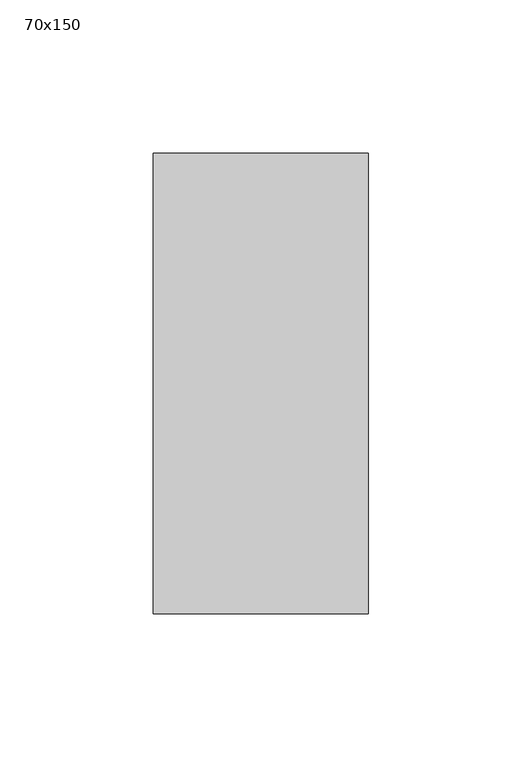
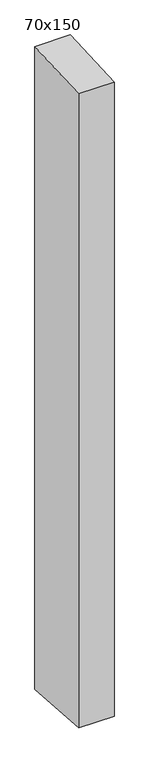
"""IFC4 building model written with IfcOpenShell, lengths in millimetres: member geometry, 長方形のマリオン : 70x150."""

import ifcopenshell
import ifcopenshell.guid

model = None  # the IFC model being written
_history = None  # IfcOwnerHistory: only IFC2X3 demands one
_inside = {}  # id of a spatial element -> (the spatial element, [elements in it])
_under = {}  # id of a project, library or spatial element -> (it, [spatial elements below it])
_declared = {}  # id of a project -> (the project, [libraries it declares])
_typed = {}  # id of a type object -> (the type object, [elements of that type])
_made_of = {}  # id of a material, layer set ... -> (it, [elements and type objects made of it])


def new_model(schema):
    """Start an empty IFC model of exactly this schema.

    Asked for "IFC4X3", IfcOpenShell would pick the latest addendum, in which some entities
    have other attributes; the version numbers below select the first issue.
    IFC2X3 requires an IfcOwnerHistory on every rooted entity: one is made here for all.
    """
    global model, _history
    if schema == "IFC4X3":
        model = ifcopenshell.file(schema_version=(4, 3, 0, 0))
    else:
        model = ifcopenshell.file(schema=schema)
    _inside.clear()
    _under.clear()
    _declared.clear()
    _typed.clear()
    _made_of.clear()
    _history = None
    if model.schema == "IFC2X3":
        org = make("IfcOrganization", Name="unknown")
        user = make(
            "IfcPersonAndOrganization",
            ThePerson=make("IfcPerson", FamilyName="unknown"),
            TheOrganization=org,
        )
        app = make(
            "IfcApplication",
            ApplicationDeveloper=org,
            Version="unknown",
            ApplicationFullName="unknown",
            ApplicationIdentifier="unknown",
        )
        _history = make(
            "IfcOwnerHistory",
            OwningUser=user,
            OwningApplication=app,
            ChangeAction="ADDED",
            CreationDate=0,
        )
    return model


def make(cls, **values):
    """One entity of the class cls with the attributes given. An attribute that is None is left unset."""
    return model.create_entity(
        cls, **{name: value for name, value in values.items() if value is not None}
    )


def rooted(cls, **values):
    """An entity with a GlobalId (a new one), such as an element, a storey or a relation."""
    return make(cls, GlobalId=ifcopenshell.guid.new(), OwnerHistory=_history, **values)


def si_unit(unit_type, name, prefix=None):
    """IfcSIUnit, for example si_unit("LENGTHUNIT", "METRE", prefix="MILLI")."""
    return make("IfcSIUnit", UnitType=unit_type, Prefix=prefix, Name=name)


def assignment(units):
    """IfcUnitAssignment: the units of a project."""
    return None if units is None else make("IfcUnitAssignment", Units=units)


def point(xyz):
    """IfcCartesianPoint."""
    return None if xyz is None else make("IfcCartesianPoint", Coordinates=xyz)


def direction(xyz):
    """IfcDirection."""
    return None if xyz is None else make("IfcDirection", DirectionRatios=xyz)


def frame(location, z_axis=None, x_axis=None):
    """IfcAxis2Placement3D, a coordinate frame: its origin and axes. An axis left out is left unset."""
    return make(
        "IfcAxis2Placement3D",
        Location=point(location),
        Axis=direction(z_axis),
        RefDirection=direction(x_axis),
    )


def origin():
    """The frame at (0, 0, 0) with its axes left unset."""
    return frame((0.0, 0.0, 0.0))


def place(relative_to, where):
    """IfcLocalPlacement: puts the frame where relative to a parent placement (None: the world)."""
    return make(
        "IfcLocalPlacement", PlacementRelTo=relative_to, RelativePlacement=where
    )


def context(
    kind, dimensions, precision=None, world=None, true_north=None, identifier=None
):
    """IfcGeometricRepresentationContext, for example the 3D "Model" context."""
    return make(
        "IfcGeometricRepresentationContext",
        ContextIdentifier=identifier,
        ContextType=kind,
        CoordinateSpaceDimension=dimensions,
        Precision=precision,
        WorldCoordinateSystem=world,
        TrueNorth=true_north,
    )


def project(units=None, contexts=None):
    """IfcProject with its units and contexts."""
    return rooted(
        "IfcProject",
        Name="project",
        RepresentationContexts=contexts,
        UnitsInContext=assignment(units),
    )


def spatial(cls, under=None, at=None, **own):
    """A site, building, storey or space (cls), placed at a placement, below another one or the project."""
    s = rooted(cls, ObjectPlacement=at, **own)
    if under is not None:
        _under.setdefault(under.id(), (under, []))[1].append(s)
    return s


def polyline(points):
    """IfcPolyline through the points."""
    return make("IfcPolyline", Points=[point(p) for p in points])


def outline(outer, holes=None, kind="AREA"):
    """IfcArbitraryClosedProfileDef: a profile drawn as a closed curve; with holes, ...WithVoids."""
    if holes is None:
        return make("IfcArbitraryClosedProfileDef", ProfileType=kind, OuterCurve=outer)
    return make(
        "IfcArbitraryProfileDefWithVoids",
        ProfileType=kind,
        OuterCurve=outer,
        InnerCurves=holes,
    )


def extrude(swept, where, along, depth):
    """IfcExtrudedAreaSolid: the profile swept, set in the frame where, extruded along a direction by depth."""
    return make(
        "IfcExtrudedAreaSolid",
        SweptArea=swept,
        Position=where,
        ExtrudedDirection=direction(along),
        Depth=depth,
    )


def shape(context_of_items, identifier, shape_type, items):
    """IfcShapeRepresentation: the items that make up one representation, for example the "Body"."""
    return make(
        "IfcShapeRepresentation",
        ContextOfItems=context_of_items,
        RepresentationIdentifier=identifier,
        RepresentationType=shape_type,
        Items=items,
    )


def source(mapping_origin, context_of_items, identifier, shape_type, items):
    """IfcRepresentationMap: a shape defined once, which mapped items show again and again."""
    return make(
        "IfcRepresentationMap",
        MappingOrigin=mapping_origin,
        MappedRepresentation=shape(context_of_items, identifier, shape_type, items),
    )


def transform(
    local_origin,
    x_axis=None,
    y_axis=None,
    z_axis=None,
    scale=None,
    scale2=None,
    scale3=None,
    uniform=True,
):
    """IfcCartesianTransformationOperator3D, or its non-uniform kind. x_axis, y_axis, z_axis: its Axis1, 2, 3."""
    if uniform:
        return make(
            "IfcCartesianTransformationOperator3D",
            Axis1=direction(x_axis),
            Axis2=direction(y_axis),
            LocalOrigin=point(local_origin),
            Scale=scale,
            Axis3=direction(z_axis),
        )
    return make(
        "IfcCartesianTransformationOperator3DnonUniform",
        Axis1=direction(x_axis),
        Axis2=direction(y_axis),
        LocalOrigin=point(local_origin),
        Scale=scale,
        Axis3=direction(z_axis),
        Scale2=scale2,
        Scale3=scale3,
    )


def mapped(mapping_source, mapping_target):
    """IfcMappedItem: shows the shape of a source again, moved by a transform."""
    return make(
        "IfcMappedItem", MappingSource=mapping_source, MappingTarget=mapping_target
    )


def made_of(thing, what):
    """Note that an element or type object is made of a material, layer set ...; save() writes the relation."""
    if what is not None:
        _made_of.setdefault(what.id(), (what, []))[1].append(thing)
    return thing


def element(
    cls,
    number,
    at=None,
    inside=None,
    cuts=None,
    type_object=None,
    material=None,
    context=None,
    identifier="Body",
    shape_type=None,
    held_by="IfcProductDefinitionShape",
    body=None,
    shapes=None,
    **own,
):
    """One element of the class cls, such as IfcWall. Its Tag is "e" and its number.

    at: its placement. inside: the storey or other place that contains it. cuts: it is an
    opening in that element (IfcRelVoidsElement). A single representation is given by context,
    identifier, shape_type and body (its items); several are given by shapes. held_by: the class
    of the entity that holds the representations. save() writes the other relations.
    """
    e = rooted(cls, Tag="e%d" % number, ObjectPlacement=at, **own)
    if body is not None:
        shapes = [shape(context, identifier, shape_type, body)]
    if shapes is not None:
        e.Representation = make(held_by, Representations=shapes)
    if inside is not None:
        _inside.setdefault(inside.id(), (inside, []))[1].append(e)
    if cuts is not None:
        rooted(
            "IfcRelVoidsElement", RelatingBuildingElement=cuts, RelatedOpeningElement=e
        )
    if type_object is not None:
        _typed.setdefault(type_object.id(), (type_object, []))[1].append(e)
    return made_of(e, material)


def aggregate(whole, parts):
    """IfcRelAggregates: a whole, such as a stair, and the parts it consists of."""
    return rooted("IfcRelAggregates", RelatingObject=whole, RelatedObjects=parts)


def save(model, path):
    """Write the relations noted so far, then the file.

    IfcRelAggregates (storeys below a building ...), IfcRelContainedInSpatialStructure (elements
    in a storey), IfcRelDefinesByType, IfcRelAssociatesMaterial and IfcRelDeclares: one each for
    every whole, place, type object, material and project.
    """
    for whole, parts in _under.values():
        aggregate(whole, parts)
    for where, things in _inside.values():
        rooted(
            "IfcRelContainedInSpatialStructure",
            RelatedElements=things,
            RelatingStructure=where,
        )
    for kind, things in _typed.values():
        rooted("IfcRelDefinesByType", RelatedObjects=things, RelatingType=kind)
    for what, things in _made_of.values():
        rooted("IfcRelAssociatesMaterial", RelatedObjects=things, RelatingMaterial=what)
    for by, libraries in _declared.values():
        rooted("IfcRelDeclares", RelatingContext=by, RelatedDefinitions=libraries)
    model.write(path)


def member_70x150_fc65bdc9(model_context):
    return source(origin(), model_context, "Body", "SweptSolid", [
        extrude(outline(polyline([(-75.0, -4.0221102), (75.0, 4.0221102), (75.0, -1340.9131056), (-75.0, -1330.8590309), (-75.0, -4.0221102)])), frame((-70.0, 0.0, 0.0), z_axis=(1.0, 0.0, 0.0), x_axis=(0.0, 1.0, 0.0)), (0.0, 0.0, 1.0), 70.0),
    ])


if __name__ == "__main__":
    model = new_model("IFC4")
    model_context = context("Model", 3, world=origin())
    ifc_project = project(units=[si_unit("LENGTHUNIT", "METRE", prefix="MILLI")], contexts=[model_context])
    site = spatial("IfcSite", under=ifc_project)
    building = spatial("IfcBuilding", under=site)
    placement = place(None, origin())
    member_70x150_shape = member_70x150_fc65bdc9(model_context)
    element("IfcMember", 1, ObjectType="長方形のマリオン : 70x150", at=placement, inside=building, context=model_context, shape_type="MappedRepresentation", body=[
        mapped(member_70x150_shape, transform((0.0, 0.0, 0.0), x_axis=(1.0, 0.0, 0.0), y_axis=(0.0, 1.0, 0.0), z_axis=(0.0, 0.0, 1.0))),
    ])
    save(model, "model.ifc")
